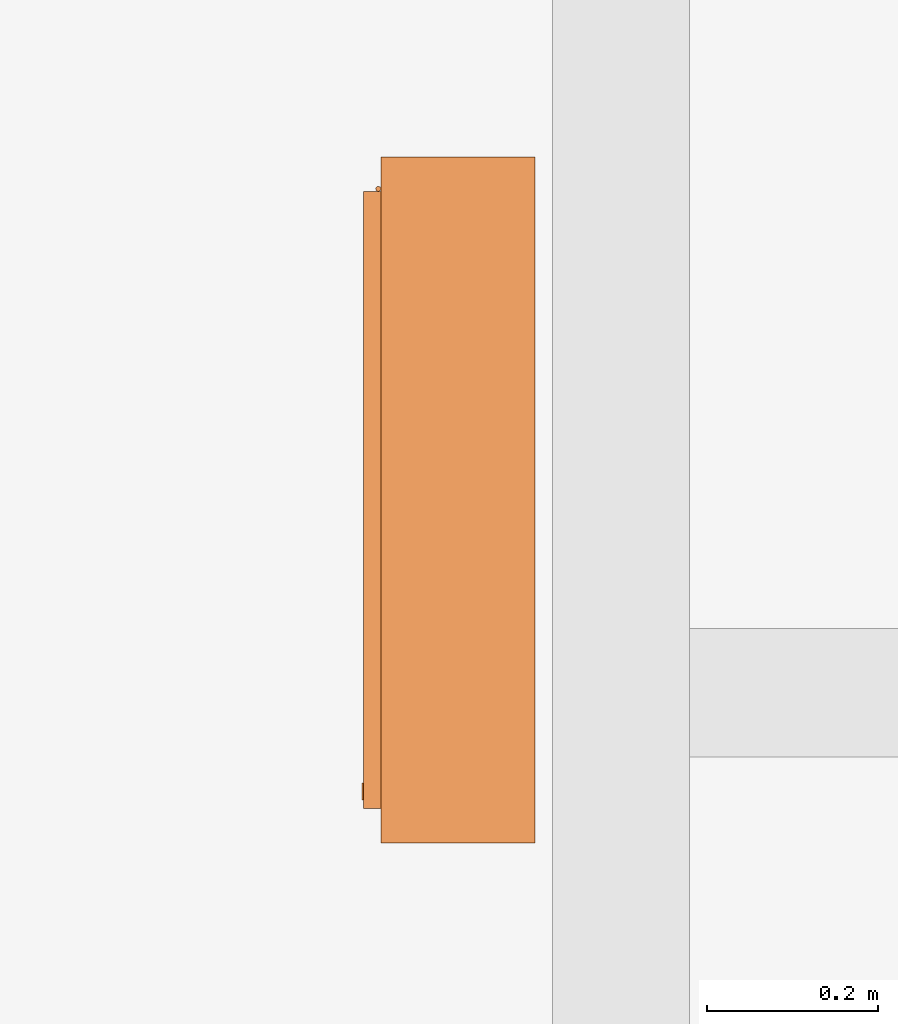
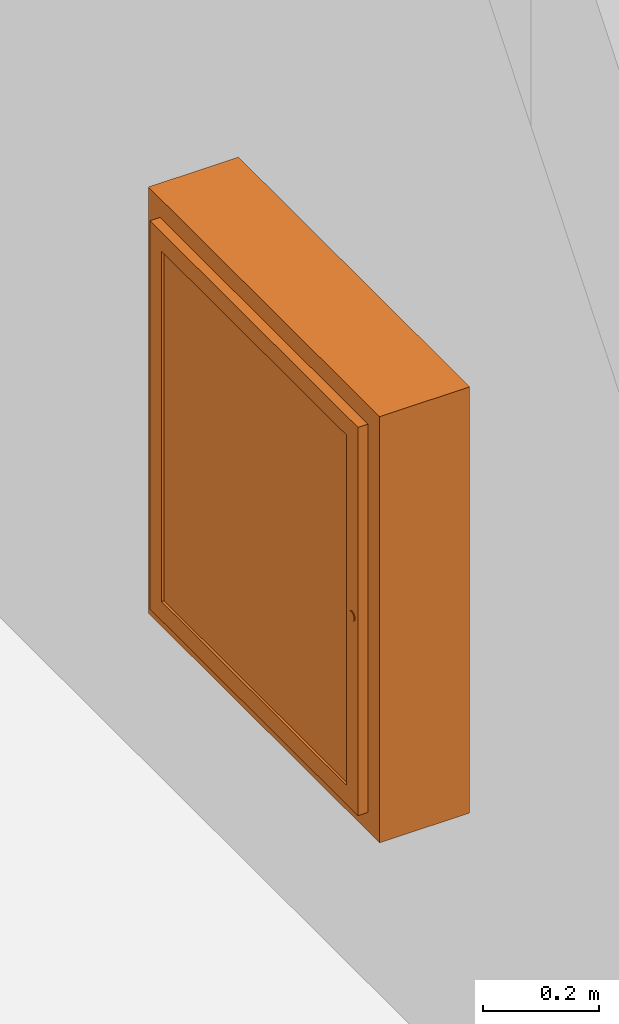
# One storey, part 17 of 46: 1 proxy.
"""IFC2X3 building model written with IfcOpenShell, lengths in millimetres."""

from ifc_helpers import new_model, entity, si_unit, converted_unit, derived_unit, money_unit, direction, frame, origin_with_axes, place, context, subcontext, project, spatial, faceted_brep, source, transform, mapped, type_object, element, save


model = new_model("IFC2X3")

# Units and contexts
model_context = context("Model", 3, precision=0.01, world=origin_with_axes(), true_north=direction((0.34421633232, 0.938890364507)))
body_context = subcontext(model_context, "Body", "Model", "MODEL_VIEW")
ifc_project = project(units=[si_unit("LENGTHUNIT", "METRE", prefix="MILLI"), si_unit("AREAUNIT", "SQUARE_METRE"), si_unit("VOLUMEUNIT", "CUBIC_METRE"), converted_unit("PLANEANGLEUNIT", "DEGREE", entity("IfcPlaneAngleMeasure", 0.0174532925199), si_unit("PLANEANGLEUNIT", "RADIAN"), dimensions=[0, 0, 0, 0, 0, 0, 0]), si_unit("SOLIDANGLEUNIT", "STERADIAN"), money_unit("USD"), converted_unit("TIMEUNIT", "Year", entity("IfcTimeMeasure", 31556926.0), si_unit("TIMEUNIT", "SECOND"), dimensions=[0, 0, 1, 0, 0, 0, 0]), si_unit("MASSUNIT", "GRAM", prefix="KILO"), si_unit("THERMODYNAMICTEMPERATUREUNIT", "DEGREE_CELSIUS"), si_unit("LUMINOUSINTENSITYUNIT", "LUMEN"), si_unit("ENERGYUNIT", "JOULE", prefix="MEGA"), derived_unit("THERMALCONDUCTANCEUNIT", [(si_unit("POWERUNIT", "WATT"), 1), (si_unit("LENGTHUNIT", "METRE"), -1), (si_unit("THERMODYNAMICTEMPERATUREUNIT", "KELVIN"), -1)]), derived_unit("SPECIFICHEATCAPACITYUNIT", [(si_unit("ENERGYUNIT", "JOULE"), 1), (si_unit("MASSUNIT", "GRAM", prefix="KILO"), -1), (si_unit("THERMODYNAMICTEMPERATUREUNIT", "KELVIN"), -1)]), derived_unit("MASSDENSITYUNIT", [(si_unit("MASSUNIT", "GRAM", prefix="KILO"), 1), (si_unit("VOLUMEUNIT", "CUBIC_METRE"), -1)])], contexts=[model_context])

# Site, building, storey
site_placement = place(None, origin_with_axes())
site = spatial("IfcSite", under=ifc_project, at=site_placement, Name="USTRONIE MORSKIE", CompositionType="ELEMENT")
building_placement = place(site_placement, origin_with_axes())
building = spatial("IfcBuilding", under=site, at=building_placement, Name="Budynek", CompositionType="ELEMENT")
storey_placement = place(building_placement, origin_with_axes())
storey = spatial("IfcBuildingStorey", under=building, at=storey_placement, Name="PARTER", CompositionType="ELEMENT", Elevation=0.0)

# Proxy
building_element_proxy_type = type_object("IfcBuildingElementProxyType", Name="Skrzynka P-Poż 23", PredefinedType="NOTDEFINED")
shared_shape = source(origin_with_axes(), body_context, "Body", "Brep", [
    faceted_brep([(0.0, 40.0, 0.0), (800.0, 40.0, 0.0), (800.0, 20.0, 0.0), (0.0, 20.0, 0.0), (0.0, 40.0, 900.0), (800.0, 40.0, 900.0), (60.0, 40.0, 60.0), (740.0, 40.0, 60.0), (740.0, 40.0, 840.0), (60.0, 40.0, 840.0), (800.0, 20.0, 900.0), (0.0, 20.0, 900.0), (60.0, 20.0, 60.0), (60.0, 20.0, 840.0), (740.0, 20.0, 840.0), (740.0, 20.0, 60.0)], [[[0, 1, 2, 3]], [[0, 4, 5, 1], [6, 7, 8, 9]], [[1, 5, 10, 2]], [[3, 2, 10, 11], [12, 13, 14, 15]], [[4, 0, 3, 11]], [[5, 4, 11, 10]], [[7, 6, 12, 15]], [[8, 7, 15, 14]], [[9, 8, 14, 13]], [[6, 9, 13, 12]]]),
    faceted_brep([(40.0, 20.0, 40.0), (760.0, 20.0, 40.0), (760.0, 0.0, 40.0), (40.0, 0.0, 40.0), (40.0, 20.0, 860.0), (760.0, 20.0, 860.0), (80.0, 20.0, 80.0), (720.0, 20.0, 80.0), (720.0, 20.0, 820.0), (80.0, 20.0, 820.0), (760.0, 0.0, 860.0), (40.0, 0.0, 860.0), (80.0, 0.0, 80.0), (80.0, 0.0, 820.0), (720.0, 0.0, 820.0), (720.0, 0.0, 80.0)], [[[0, 1, 2, 3]], [[0, 4, 5, 1], [6, 7, 8, 9]], [[1, 5, 10, 2]], [[3, 2, 10, 11], [12, 13, 14, 15]], [[4, 0, 3, 11]], [[5, 4, 11, 10]], [[7, 6, 12, 15]], [[8, 7, 15, 14]], [[9, 8, 14, 13]], [[6, 9, 13, 12]]]),
    faceted_brep([(0.0, 180.0, 0.0), (800.0, 180.0, 0.0), (800.0, 40.0, 0.0), (0.0, 40.0, 0.0), (0.0, 180.0, 900.0), (800.0, 180.0, 900.0), (20.0, 180.0, 20.0), (780.0, 180.0, 20.0), (780.0, 180.0, 880.0), (20.0, 180.0, 880.0), (800.0, 40.0, 900.0), (0.0, 40.0, 900.0), (20.0, 40.0, 20.0), (20.0, 40.0, 880.0), (780.0, 40.0, 880.0), (780.0, 40.0, 20.0)], [[[0, 1, 2, 3]], [[0, 4, 5, 1], [6, 7, 8, 9]], [[1, 5, 10, 2]], [[3, 2, 10, 11], [12, 13, 14, 15]], [[4, 0, 3, 11]], [[5, 4, 11, 10]], [[7, 6, 12, 15]], [[8, 7, 15, 14]], [[9, 8, 14, 13]], [[6, 9, 13, 12]]]),
    faceted_brep([(0.0, 200.0, 0.0), (800.0, 200.0, 0.0), (800.0, 180.0, 0.0), (0.0, 180.0, 0.0), (0.0, 200.0, 900.0), (800.0, 200.0, 900.0), (800.0, 180.0, 900.0), (0.0, 180.0, 900.0)], [[[0, 1, 2, 3]], [[0, 4, 5, 1]], [[1, 5, 6, 2]], [[3, 2, 6, 7]], [[4, 0, 3, 7]], [[5, 4, 7, 6]]]),
    faceted_brep([(80.0, 15.0, 80.0), (720.0, 15.0, 80.0), (720.0, 5.0, 80.0), (80.0, 5.0, 80.0), (80.0, 15.0, 820.0), (720.0, 15.0, 820.0), (720.0, 5.0, 820.0), (80.0, 5.0, 820.0)], [[[0, 1, 2, 3]], [[0, 4, 5, 1]], [[1, 5, 6, 2]], [[3, 2, 6, 7]], [[4, 0, 3, 7]], [[5, 4, 7, 6]]]),
    faceted_brep([(749.659258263, 0.0, 447.411809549), (748.660254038, 0.0, 445.0), (747.071067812, 0.0, 442.928932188), (745.0, 0.0, 441.339745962), (742.588190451, 0.0, 440.340741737), (740.0, 0.0, 440.0), (737.411809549, 0.0, 440.340741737), (735.0, 0.0, 441.339745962), (732.928932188, 0.0, 442.928932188), (731.339745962, 0.0, 445.0), (730.340741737, 0.0, 447.411809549), (730.0, 0.0, 450.0), (730.340741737, 0.0, 452.588190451), (731.339745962, 0.0, 455.0), (732.928932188, 0.0, 457.071067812), (735.0, 0.0, 458.660254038), (737.411809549, 0.0, 459.659258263), (740.0, 0.0, 460.0), (742.588190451, 0.0, 459.659258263), (745.0, 0.0, 458.660254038), (747.071067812, 0.0, 457.071067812), (748.660254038, 0.0, 455.0), (749.659258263, 0.0, 452.588190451), (750.0, 0.0, 450.0), (749.659258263, -2.0, 447.411809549), (748.660254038, -2.0, 445.0), (747.071067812, -2.0, 442.928932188), (745.0, -2.0, 441.339745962), (742.588190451, -2.0, 440.340741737), (740.0, -2.0, 440.0), (737.411809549, -2.0, 440.340741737), (735.0, -2.0, 441.339745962), (732.928932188, -2.0, 442.928932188), (731.339745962, -2.0, 445.0), (730.340741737, -2.0, 447.411809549), (730.0, -2.0, 450.0), (730.340741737, -2.0, 452.588190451), (731.339745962, -2.0, 455.0), (732.928932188, -2.0, 457.071067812), (735.0, -2.0, 458.660254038), (737.411809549, -2.0, 459.659258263), (740.0, -2.0, 460.0), (742.588190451, -2.0, 459.659258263), (745.0, -2.0, 458.660254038), (747.071067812, -2.0, 457.071067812), (748.660254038, -2.0, 455.0), (749.659258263, -2.0, 452.588190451), (750.0, -2.0, 450.0)], [[[0, 1, 2, 3, 4, 5, 6, 7, 8, 9, 10, 11, 12, 13, 14, 15, 16, 17, 18, 19, 20, 21, 22, 23]], [[1, 0, 24, 25]], [[2, 1, 25, 26]], [[3, 2, 26, 27]], [[4, 3, 27, 28]], [[5, 4, 28, 29]], [[6, 5, 29, 30]], [[7, 6, 30, 31]], [[8, 7, 31, 32]], [[9, 8, 32, 33]], [[10, 9, 33, 34]], [[11, 10, 34, 35]], [[12, 11, 35, 36]], [[13, 12, 36, 37]], [[14, 13, 37, 38]], [[15, 14, 38, 39]], [[16, 15, 39, 40]], [[17, 16, 40, 41]], [[18, 17, 41, 42]], [[19, 18, 42, 43]], [[20, 19, 43, 44]], [[21, 20, 44, 45]], [[22, 21, 45, 46]], [[23, 22, 46, 47]], [[0, 23, 47, 24]], [[24, 47, 46, 45, 44, 43, 42, 41, 40, 39, 38, 37, 36, 35, 34, 33, 32, 31, 30, 29, 28, 27, 26, 25]]]),
    faceted_brep([(39.8977774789, 16.2235428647, 80.0), (39.5980762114, 15.5, 80.0), (39.1213203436, 14.8786796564, 80.0), (38.5, 14.4019237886, 80.0), (37.7764571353, 14.1022225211, 80.0), (37.0, 14.0, 80.0), (36.2235428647, 14.1022225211, 80.0), (35.5, 14.4019237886, 80.0), (34.8786796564, 14.8786796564, 80.0), (34.4019237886, 15.5, 80.0), (34.1022225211, 16.2235428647, 80.0), (34.0, 17.0, 80.0), (34.1022225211, 17.7764571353, 80.0), (34.4019237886, 18.5, 80.0), (34.8786796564, 19.1213203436, 80.0), (35.5, 19.5980762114, 80.0), (36.2235428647, 19.8977774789, 80.0), (37.0, 20.0, 80.0), (37.7764571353, 19.8977774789, 80.0), (38.5, 19.5980762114, 80.0), (39.1213203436, 19.1213203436, 80.0), (39.5980762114, 18.5, 80.0), (39.8977774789, 17.7764571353, 80.0), (40.0, 17.0, 80.0), (39.8977774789, 16.2235428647, 120.0), (39.5980762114, 15.5, 120.0), (39.1213203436, 14.8786796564, 120.0), (38.5, 14.4019237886, 120.0), (37.7764571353, 14.1022225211, 120.0), (37.0, 14.0, 120.0), (36.2235428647, 14.1022225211, 120.0), (35.5, 14.4019237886, 120.0), (34.8786796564, 14.8786796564, 120.0), (34.4019237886, 15.5, 120.0), (34.1022225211, 16.2235428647, 120.0), (34.0, 17.0, 120.0), (34.1022225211, 17.7764571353, 120.0), (34.4019237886, 18.5, 120.0), (34.8786796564, 19.1213203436, 120.0), (35.5, 19.5980762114, 120.0), (36.2235428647, 19.8977774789, 120.0), (37.0, 20.0, 120.0), (37.7764571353, 19.8977774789, 120.0), (38.5, 19.5980762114, 120.0), (39.1213203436, 19.1213203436, 120.0), (39.5980762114, 18.5, 120.0), (39.8977774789, 17.7764571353, 120.0), (40.0, 17.0, 120.0)], [[[0, 1, 2, 3, 4, 5, 6, 7, 8, 9, 10, 11, 12, 13, 14, 15, 16, 17, 18, 19, 20, 21, 22, 23]], [[1, 0, 24, 25]], [[2, 1, 25, 26]], [[3, 2, 26, 27]], [[4, 3, 27, 28]], [[5, 4, 28, 29]], [[6, 5, 29, 30]], [[7, 6, 30, 31]], [[8, 7, 31, 32]], [[9, 8, 32, 33]], [[10, 9, 33, 34]], [[11, 10, 34, 35]], [[12, 11, 35, 36]], [[13, 12, 36, 37]], [[14, 13, 37, 38]], [[15, 14, 38, 39]], [[16, 15, 39, 40]], [[17, 16, 40, 41]], [[18, 17, 41, 42]], [[19, 18, 42, 43]], [[20, 19, 43, 44]], [[21, 20, 44, 45]], [[22, 21, 45, 46]], [[23, 22, 46, 47]], [[0, 23, 47, 24]], [[24, 47, 46, 45, 44, 43, 42, 41, 40, 39, 38, 37, 36, 35, 34, 33, 32, 31, 30, 29, 28, 27, 26, 25]]]),
    faceted_brep([(39.8977774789, 16.2235428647, 780.0), (39.5980762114, 15.5, 780.0), (39.1213203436, 14.8786796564, 780.0), (38.5, 14.4019237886, 780.0), (37.7764571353, 14.1022225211, 780.0), (37.0, 14.0, 780.0), (36.2235428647, 14.1022225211, 780.0), (35.5, 14.4019237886, 780.0), (34.8786796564, 14.8786796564, 780.0), (34.4019237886, 15.5, 780.0), (34.1022225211, 16.2235428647, 780.0), (34.0, 17.0, 780.0), (34.1022225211, 17.7764571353, 780.0), (34.4019237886, 18.5, 780.0), (34.8786796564, 19.1213203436, 780.0), (35.5, 19.5980762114, 780.0), (36.2235428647, 19.8977774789, 780.0), (37.0, 20.0, 780.0), (37.7764571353, 19.8977774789, 780.0), (38.5, 19.5980762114, 780.0), (39.1213203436, 19.1213203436, 780.0), (39.5980762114, 18.5, 780.0), (39.8977774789, 17.7764571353, 780.0), (40.0, 17.0, 780.0), (39.8977774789, 16.2235428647, 820.0), (39.5980762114, 15.5, 820.0), (39.1213203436, 14.8786796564, 820.0), (38.5, 14.4019237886, 820.0), (37.7764571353, 14.1022225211, 820.0), (37.0, 14.0, 820.0), (36.2235428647, 14.1022225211, 820.0), (35.5, 14.4019237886, 820.0), (34.8786796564, 14.8786796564, 820.0), (34.4019237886, 15.5, 820.0), (34.1022225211, 16.2235428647, 820.0), (34.0, 17.0, 820.0), (34.1022225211, 17.7764571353, 820.0), (34.4019237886, 18.5, 820.0), (34.8786796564, 19.1213203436, 820.0), (35.5, 19.5980762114, 820.0), (36.2235428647, 19.8977774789, 820.0), (37.0, 20.0, 820.0), (37.7764571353, 19.8977774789, 820.0), (38.5, 19.5980762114, 820.0), (39.1213203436, 19.1213203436, 820.0), (39.5980762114, 18.5, 820.0), (39.8977774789, 17.7764571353, 820.0), (40.0, 17.0, 820.0)], [[[0, 1, 2, 3, 4, 5, 6, 7, 8, 9, 10, 11, 12, 13, 14, 15, 16, 17, 18, 19, 20, 21, 22, 23]], [[1, 0, 24, 25]], [[2, 1, 25, 26]], [[3, 2, 26, 27]], [[4, 3, 27, 28]], [[5, 4, 28, 29]], [[6, 5, 29, 30]], [[7, 6, 30, 31]], [[8, 7, 31, 32]], [[9, 8, 32, 33]], [[10, 9, 33, 34]], [[11, 10, 34, 35]], [[12, 11, 35, 36]], [[13, 12, 36, 37]], [[14, 13, 37, 38]], [[15, 14, 38, 39]], [[16, 15, 39, 40]], [[17, 16, 40, 41]], [[18, 17, 41, 42]], [[19, 18, 42, 43]], [[20, 19, 43, 44]], [[21, 20, 44, 45]], [[22, 21, 45, 46]], [[23, 22, 46, 47]], [[0, 23, 47, 24]], [[24, 47, 46, 45, 44, 43, 42, 41, 40, 39, 38, 37, 36, 35, 34, 33, 32, 31, 30, 29, 28, 27, 26, 25]]]),
])
proxy_placement = place(storey_placement, frame((417817.920919, 728201.202998, 600.0), z_axis=(0.0, 0.0, 1.0), x_axis=(0.0, -1.0, 0.0)))
element("IfcBuildingElementProxy", 1, at=proxy_placement, inside=storey, type_object=building_element_proxy_type, Name="OB3", context=body_context, shape_type="MappedRepresentation", body=[
    mapped(shared_shape, transform((0.0, 0.0, 0.0))),
])

save(model, "model.ifc")
